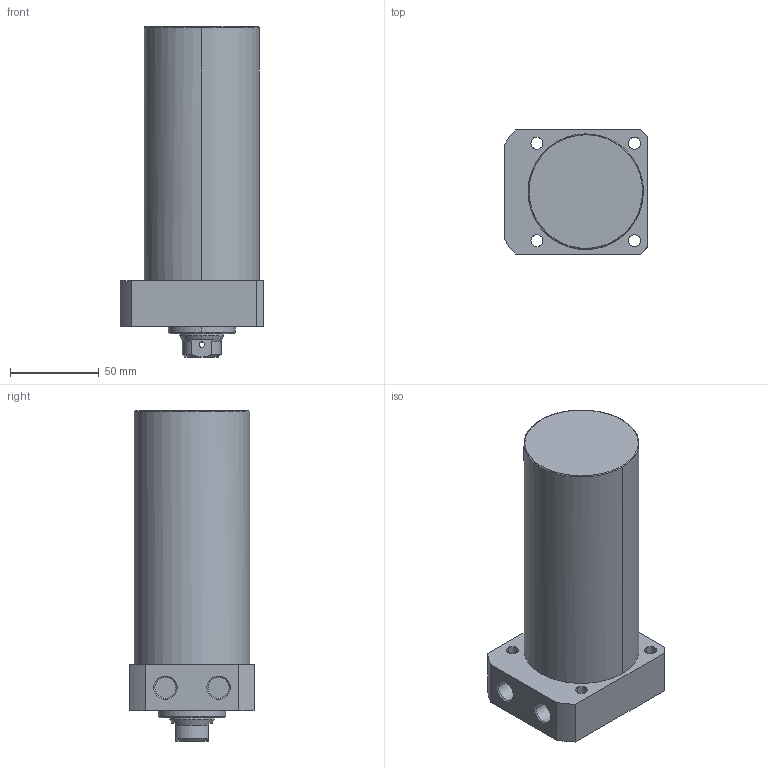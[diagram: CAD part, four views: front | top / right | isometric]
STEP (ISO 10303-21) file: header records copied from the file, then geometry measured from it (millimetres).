
FILE_DESCRIPTION((' '),'2;1');
FILE_NAME( 'TLLR-065CB-110.STEP.stp', '2025-10-24T16:34:57', (' '), ('--- Datakit www.datakit.com---'), ' Datakit CrossCadWare V2024.1 Dec 21 2023', 'Mastercam 2025', ' ');
FILE_SCHEMA(('AUTOMOTIVE_DESIGN { 1 0 10303 214 1 1 1 1 }'));
Length unit declared in the file: millimetre
Products named in the file (1): TLLR-065CB-110
Bounding box: 81 x 70 x 186 mm (x, y, z)
Volume: 618404.5 mm3; surface area: 53671.5 mm2
Topology: 1 solids, 1 shells, 67 faces, 197 edges, 136 vertices
Faces by surface type: cylinder 32, plane 19, cone 14, torus 2
Entity records: 3278 total; most frequent: CARTESIAN_POINT 1359, DIRECTION 426, ORIENTED_EDGE 390, EDGE_CURVE 195, AXIS2_PLACEMENT_3D 179, VERTEX_POINT 136, CIRCLE 111, EDGE_LOOP 85
